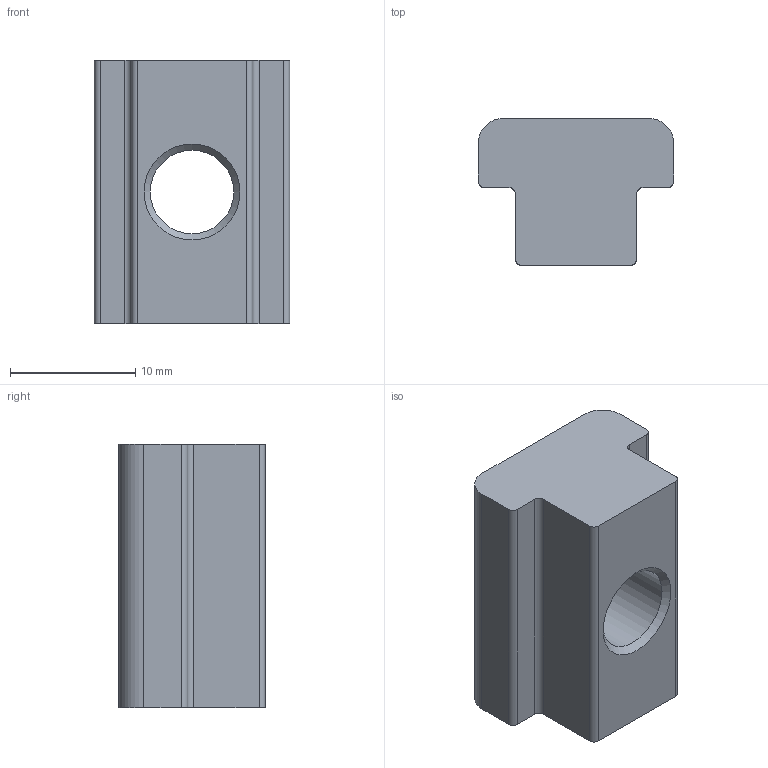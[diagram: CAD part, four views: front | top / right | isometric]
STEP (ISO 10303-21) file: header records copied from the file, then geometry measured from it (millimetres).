
FILE_DESCRIPTION(/* description */ (''),/* implementation_level */ '2;1');
FILE_NAME(/* name */ '',/* time_stamp */ '2025-05-27T09:37:19+03:00',/* author */ ('User'),/* organization */ (''),/* preprocessor_version */ 'ST-DEVELOPER v19.2',/* originating_system */ 'Autodesk Inventor 2024',/* authorisation */ '');
FILE_SCHEMA (('AUTOMOTIVE_DESIGN { 1 0 10303 214 3 1 1 }'));
Length unit declared in the file: millimetre
Products named in the file (1): M8T
Bounding box: 15.6 x 11.7 x 21 mm (x, y, z)
Volume: 2612.6 mm3; surface area: 1533.2 mm2
Topology: 1 solids, 1 shells, 21 faces, 55 edges, 36 vertices
Faces by surface type: plane 10, cylinder 9, cone 2
Full cylindrical faces by diameter (mm): 6.647 x1
Entity records: 700 total; most frequent: DIRECTION 119, CARTESIAN_POINT 113, ORIENTED_EDGE 110, EDGE_CURVE 55, AXIS2_PLACEMENT_3D 42, VERTEX_POINT 36, LINE 35, VECTOR 35
